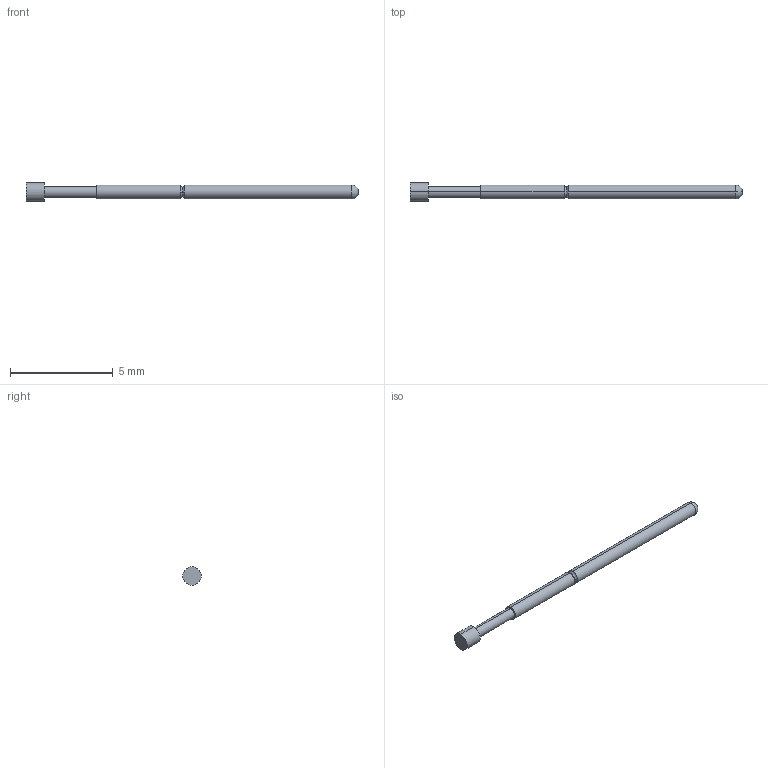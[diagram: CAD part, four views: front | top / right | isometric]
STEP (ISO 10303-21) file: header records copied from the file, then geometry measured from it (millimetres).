
FILE_DESCRIPTION (( 'STEP AP214' ), '1' );
FILE_NAME ('PA1F.STEP', '2024-02-29T11:18:41', ( '' ), ( '' ), 'SwSTEP 2.0', 'SolidWorks 2022', '' );
FILE_SCHEMA (( 'AUTOMOTIVE_DESIGN' ));
Length unit declared in the file: millimetre
Products named in the file (1): PA1F
Bounding box: 16.13 x 0.89 x 0.89 mm (x, y, z)
Volume: 5.7 mm3; surface area: 35.2 mm2
Topology: 1 solids, 1 shells, 18 faces, 38 edges, 24 vertices
Faces by surface type: cylinder 8, bspline 4, plane 4, torus 2
Entity records: 578 total; most frequent: CARTESIAN_POINT 153, DIRECTION 90, ORIENTED_EDGE 76, AXIS2_PLACEMENT_3D 41, EDGE_CURVE 38, CIRCLE 26, VERTEX_POINT 24, EDGE_LOOP 20
